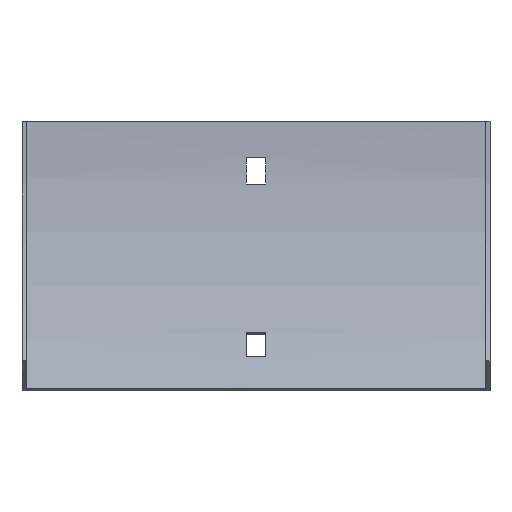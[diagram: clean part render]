
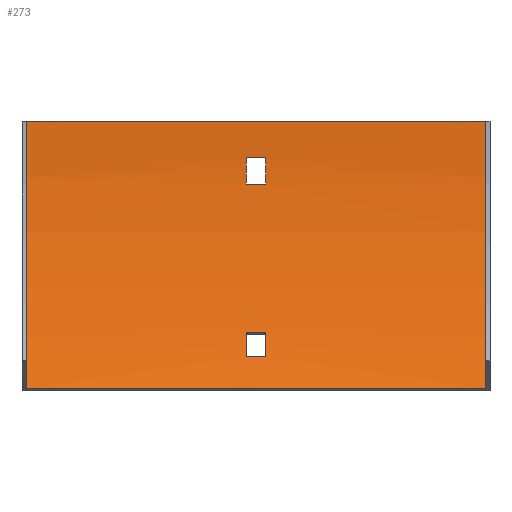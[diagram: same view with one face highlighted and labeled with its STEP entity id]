
A CAD part, front view. The second image highlights one B-rep face of the part: STEP entity #273.
In plain terms, the highlighted cylindrical face has radius 179 mm (diameter 358 mm), a partial arc.
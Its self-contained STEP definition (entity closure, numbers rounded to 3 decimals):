
#3 = CIRCLE ( 'NONE', #74, 179. ) ;
#4 = ORIENTED_EDGE ( 'NONE', *, *, #93, .F. ) ;
#7 = CARTESIAN_POINT ( 'NONE',  ( -3.25, -180.5, 0. ) ) ;
#8 = CARTESIAN_POINT ( 'NONE',  ( -3.25, -16.052, -70.695 ) ) ;
#9 = VERTEX_POINT ( 'NONE', #274 ) ;
#10 = EDGE_CURVE ( 'NONE', #312, #335, #366, .T. ) ;
#11 = DIRECTION ( 'NONE',  ( 0., 0., -1. ) ) ;
#20 = CARTESIAN_POINT ( 'NONE',  ( 3.25, -16.052, -70.695 ) ) ;
#23 = ORIENTED_EDGE ( 'NONE', *, *, #388, .T. ) ;
#26 = DIRECTION ( 'NONE',  ( 0., 0., 1. ) ) ;
#36 = CARTESIAN_POINT ( 'NONE',  ( 3.25, -1.903, -12. ) ) ;
#37 = EDGE_CURVE ( 'NONE', #9, #242, #98, .T. ) ;
#39 = DIRECTION ( 'NONE',  ( -1., 0., 0. ) ) ;
#53 = CARTESIAN_POINT ( 'NONE',  ( 77., -25.481, -89.5 ) ) ;
#60 = ORIENTED_EDGE ( 'NONE', *, *, #405, .F. ) ;
#67 = CARTESIAN_POINT ( 'NONE',  ( 77., -1.5, 0. ) ) ;
#74 = AXIS2_PLACEMENT_3D ( 'NONE', #7, #103, #11 ) ;
#87 = DIRECTION ( 'NONE',  ( 0., 0., 1. ) ) ;
#93 = EDGE_CURVE ( 'NONE', #242, #106, #138, .T. ) ;
#98 = CIRCLE ( 'NONE', #383, 179. ) ;
#103 = DIRECTION ( 'NONE',  ( 1., 0., 0. ) ) ;
#106 = VERTEX_POINT ( 'NONE', #315 ) ;
#113 = ORIENTED_EDGE ( 'NONE', *, *, #427, .T. ) ;
#118 = FACE_OUTER_BOUND ( 'NONE', #122, .T. ) ;
#122 = EDGE_LOOP ( 'NONE', ( #298, #384, #23, #187 ) ) ;
#123 = CARTESIAN_POINT ( 'NONE',  ( -77., -180.5, 0. ) ) ;
#130 = DIRECTION ( 'NONE',  ( 0., 0., 1. ) ) ;
#133 = CARTESIAN_POINT ( 'NONE',  ( 77., -180.5, 0. ) ) ;
#138 = LINE ( 'NONE', #328, #472 ) ;
#140 = AXIS2_PLACEMENT_3D ( 'NONE', #133, #324, #87 ) ;
#143 = ORIENTED_EDGE ( 'NONE', *, *, #535, .T. ) ;
#162 = CARTESIAN_POINT ( 'NONE',  ( 78.5, -16.052, -70.695 ) ) ;
#186 = EDGE_CURVE ( 'NONE', #482, #527, #359, .T. ) ;
#187 = ORIENTED_EDGE ( 'NONE', *, *, #234, .T. ) ;
#191 = CARTESIAN_POINT ( 'NONE',  ( -77., -1.5, 0. ) ) ;
#196 = VERTEX_POINT ( 'NONE', #349 ) ;
#203 = EDGE_CURVE ( 'NONE', #240, #502, #365, .T. ) ;
#210 = CARTESIAN_POINT ( 'NONE',  ( -77., -25.481, -89.5 ) ) ;
#216 = CARTESIAN_POINT ( 'NONE',  ( 78.5, -180.5, 0. ) ) ;
#219 = DIRECTION ( 'NONE',  ( -1., 0., 0. ) ) ;
#221 = CARTESIAN_POINT ( 'NONE',  ( 3.25, -180.5, 0. ) ) ;
#225 = EDGE_CURVE ( 'NONE', #106, #262, #380, .T. ) ;
#232 = LINE ( 'NONE', #424, #453 ) ;
#234 = EDGE_CURVE ( 'NONE', #196, #502, #551, .T. ) ;
#237 = DIRECTION ( 'NONE',  ( -1., 0., 0. ) ) ;
#240 = VERTEX_POINT ( 'NONE', #210 ) ;
#242 = VERTEX_POINT ( 'NONE', #36 ) ;
#243 = DIRECTION ( 'NONE',  ( -1., 0., 0. ) ) ;
#262 = VERTEX_POINT ( 'NONE', #506 ) ;
#267 = EDGE_CURVE ( 'NONE', #316, #240, #402, .T. ) ;
#270 = ORIENTED_EDGE ( 'NONE', *, *, #225, .F. ) ;
#273 = ADVANCED_FACE ( 'NONE', ( #547, #118, #304 ), #500, .F. ) ;
#274 = CARTESIAN_POINT ( 'NONE',  ( 3.25, -2.736, -21. ) ) ;
#298 = ORIENTED_EDGE ( 'NONE', *, *, #203, .F. ) ;
#304 = FACE_BOUND ( 'NONE', #496, .T. ) ;
#312 = VERTEX_POINT ( 'NONE', #419 ) ;
#315 = CARTESIAN_POINT ( 'NONE',  ( -3.25, -1.903, -12. ) ) ;
#316 = VERTEX_POINT ( 'NONE', #53 ) ;
#324 = DIRECTION ( 'NONE',  ( 1., 0., 0. ) ) ;
#327 = CIRCLE ( 'NONE', #140, 179. ) ;
#328 = CARTESIAN_POINT ( 'NONE',  ( 78.5, -1.903, -12. ) ) ;
#332 = EDGE_LOOP ( 'NONE', ( #270, #4, #533, #60 ) ) ;
#335 = VERTEX_POINT ( 'NONE', #559 ) ;
#341 = VECTOR ( 'NONE', #459, 1000. ) ;
#349 = CARTESIAN_POINT ( 'NONE',  ( 77., -1.5, 0. ) ) ;
#359 = LINE ( 'NONE', #162, #570 ) ;
#364 = VECTOR ( 'NONE', #39, 1000. ) ;
#365 = CIRCLE ( 'NONE', #491, 179. ) ;
#366 = LINE ( 'NONE', #418, #364 ) ;
#380 = CIRCLE ( 'NONE', #583, 179. ) ;
#383 = AXIS2_PLACEMENT_3D ( 'NONE', #221, #416, #425 ) ;
#384 = ORIENTED_EDGE ( 'NONE', *, *, #267, .F. ) ;
#388 = EDGE_CURVE ( 'NONE', #316, #196, #327, .T. ) ;
#398 = DIRECTION ( 'NONE',  ( 0., 0., 1. ) ) ;
#402 = LINE ( 'NONE', #404, #601 ) ;
#404 = CARTESIAN_POINT ( 'NONE',  ( 77., -25.481, -89.5 ) ) ;
#405 = EDGE_CURVE ( 'NONE', #262, #9, #232, .T. ) ;
#411 = DIRECTION ( 'NONE',  ( 1., 0., 0. ) ) ;
#416 = DIRECTION ( 'NONE',  ( 1., 0., 0. ) ) ;
#418 = CARTESIAN_POINT ( 'NONE',  ( 78.5, -19.83, -78.906 ) ) ;
#419 = CARTESIAN_POINT ( 'NONE',  ( 3.25, -19.83, -78.906 ) ) ;
#424 = CARTESIAN_POINT ( 'NONE',  ( 78.5, -2.736, -21. ) ) ;
#425 = DIRECTION ( 'NONE',  ( 0., 0., -1. ) ) ;
#427 = EDGE_CURVE ( 'NONE', #335, #482, #3, .T. ) ;
#446 = DIRECTION ( 'NONE',  ( 1., 0., 0. ) ) ;
#450 = DIRECTION ( 'NONE',  ( -1., 0., 0. ) ) ;
#453 = VECTOR ( 'NONE', #475, 1000. ) ;
#456 = DIRECTION ( 'NONE',  ( 0., 0., 1. ) ) ;
#459 = DIRECTION ( 'NONE',  ( -1., 0., 0. ) ) ;
#464 = AXIS2_PLACEMENT_3D ( 'NONE', #483, #243, #398 ) ;
#472 = VECTOR ( 'NONE', #521, 1000. ) ;
#475 = DIRECTION ( 'NONE',  ( 1., 0., 0. ) ) ;
#482 = VERTEX_POINT ( 'NONE', #8 ) ;
#483 = CARTESIAN_POINT ( 'NONE',  ( 3.25, -180.5, 0. ) ) ;
#491 = AXIS2_PLACEMENT_3D ( 'NONE', #123, #411, #456 ) ;
#496 = EDGE_LOOP ( 'NONE', ( #598, #113, #516, #143 ) ) ;
#497 = CARTESIAN_POINT ( 'NONE',  ( -3.25, -180.5, 0. ) ) ;
#500 = CYLINDRICAL_SURFACE ( 'NONE', #549, 179. ) ;
#502 = VERTEX_POINT ( 'NONE', #191 ) ;
#506 = CARTESIAN_POINT ( 'NONE',  ( -3.25, -2.736, -21. ) ) ;
#516 = ORIENTED_EDGE ( 'NONE', *, *, #186, .T. ) ;
#521 = DIRECTION ( 'NONE',  ( -1., 0., 0. ) ) ;
#527 = VERTEX_POINT ( 'NONE', #20 ) ;
#533 = ORIENTED_EDGE ( 'NONE', *, *, #37, .F. ) ;
#535 = EDGE_CURVE ( 'NONE', #527, #312, #579, .T. ) ;
#547 = FACE_BOUND ( 'NONE', #332, .T. ) ;
#549 = AXIS2_PLACEMENT_3D ( 'NONE', #216, #237, #130 ) ;
#551 = LINE ( 'NONE', #67, #341 ) ;
#559 = CARTESIAN_POINT ( 'NONE',  ( -3.25, -19.83, -78.906 ) ) ;
#570 = VECTOR ( 'NONE', #446, 1000. ) ;
#579 = CIRCLE ( 'NONE', #464, 179. ) ;
#583 = AXIS2_PLACEMENT_3D ( 'NONE', #497, #219, #26 ) ;
#598 = ORIENTED_EDGE ( 'NONE', *, *, #10, .T. ) ;
#601 = VECTOR ( 'NONE', #450, 1000. ) ;
